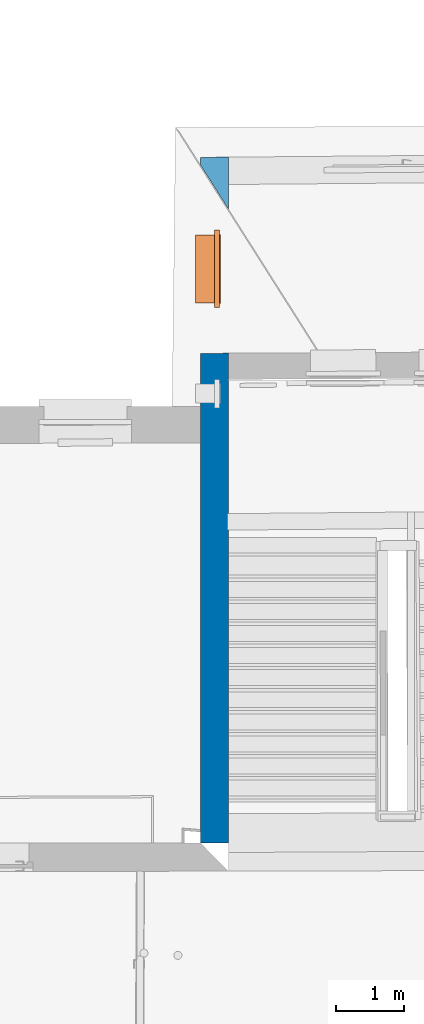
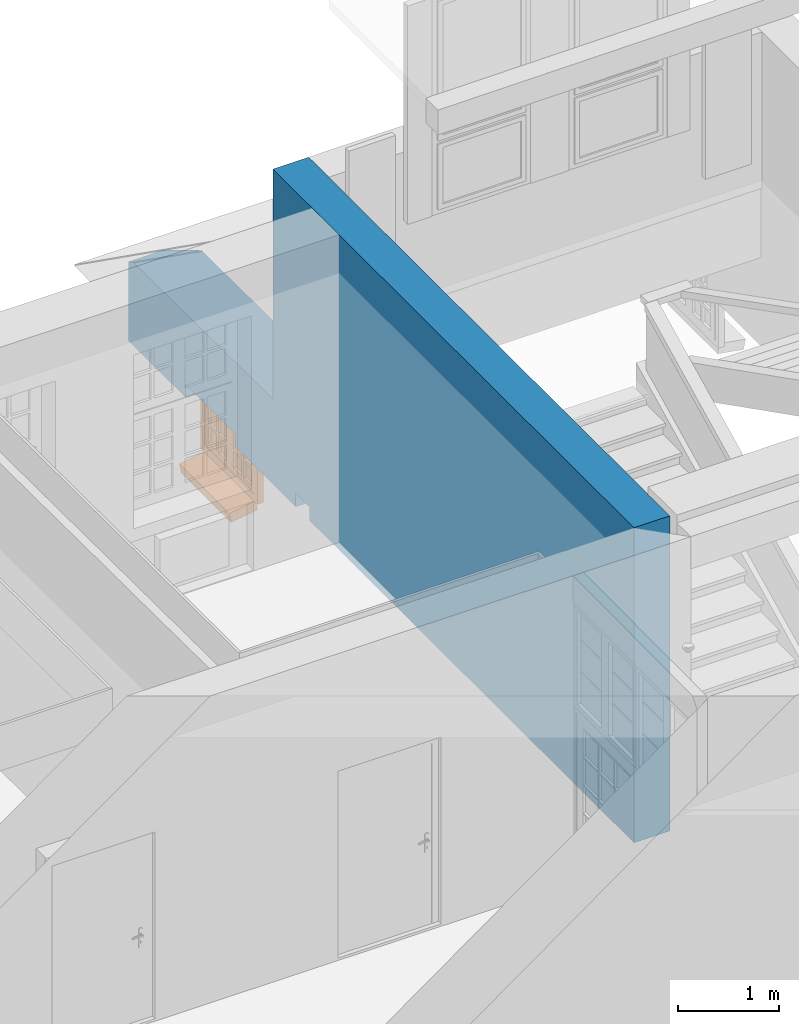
# One storey, part 59 of 158: 1 proxy, 1 wall, 2 openings.
"""IFC2X3 building model written with IfcOpenShell, lengths in metres."""

from ifc_helpers import new_model, entity, si_unit, converted_unit, derived_unit, money_unit, direction, frame, origin_with_axes, origin_2d_with_axis, place, context, subcontext, project, spatial, polyline, rectangle, outline, extrude, boolean, faceted_brep, source, transform, mapped, material, type_object, element, fill, save


model = new_model("IFC2X3")

# Units and contexts
model_context = context("Model", 3, precision=1e-05, world=origin_with_axes(), true_north=direction((0.0, 1.0)))
body_context = subcontext(model_context, "Body", "Model", "MODEL_VIEW")
ifc_project = project(units=[si_unit("LENGTHUNIT", "METRE"), si_unit("AREAUNIT", "SQUARE_METRE"), si_unit("VOLUMEUNIT", "CUBIC_METRE"), converted_unit("PLANEANGLEUNIT", "DEGREE", entity("IfcPlaneAngleMeasure", 0.0174532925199), si_unit("PLANEANGLEUNIT", "RADIAN"), dimensions=[0, 0, 0, 0, 0, 0, 0]), money_unit("EUR"), converted_unit("TIMEUNIT", "Year", entity("IfcTimeMeasure", 31556926.0), si_unit("TIMEUNIT", "SECOND"), dimensions=[0, 0, 1, 0, 0, 0, 0]), si_unit("MASSUNIT", "GRAM", prefix="KILO"), si_unit("THERMODYNAMICTEMPERATUREUNIT", "DEGREE_CELSIUS"), si_unit("LUMINOUSINTENSITYUNIT", "LUMEN"), si_unit("ENERGYUNIT", "JOULE", prefix="MEGA"), derived_unit("THERMALCONDUCTANCEUNIT", [(si_unit("POWERUNIT", "WATT"), 1), (si_unit("LENGTHUNIT", "METRE"), -1), (si_unit("THERMODYNAMICTEMPERATUREUNIT", "KELVIN"), -1)]), derived_unit("SPECIFICHEATCAPACITYUNIT", [(si_unit("ENERGYUNIT", "JOULE"), 1), (si_unit("MASSUNIT", "GRAM", prefix="KILO"), -1), (si_unit("THERMODYNAMICTEMPERATUREUNIT", "KELVIN"), -1)]), derived_unit("MASSDENSITYUNIT", [(si_unit("MASSUNIT", "GRAM", prefix="KILO"), 1), (si_unit("VOLUMEUNIT", "CUBIC_METRE"), -1)])], contexts=[model_context])

# Site, building, storey
site_placement = place(None, origin_with_axes())
site = spatial("IfcSite", under=ifc_project, at=site_placement, Name="Gelände", CompositionType="ELEMENT")
building_placement = place(site_placement, origin_with_axes())
building = spatial("IfcBuilding", under=site, at=building_placement, Name="Gebäude", CompositionType="ELEMENT")
storey_placement = place(building_placement, origin_with_axes())
storey = spatial("IfcBuildingStorey", under=building, at=storey_placement, Name="ERDGESCHOSS", CompositionType="ELEMENT", Elevation=0.0)

# Wall, openings, proxy
ifc_material = material(Name="05_ALLGEMEIN - TRAGENDE BAUTEILE")
wall_type = type_object("IfcWallType", Name="05_ALLGEMEIN - TRAGENDE BAUTEILE 410", PredefinedType="ELEMENTEDWALL")
wall_placement = place(storey_placement, frame((-9.84148057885, 19.2611596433, -0.209998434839), z_axis=(0.0, 0.0, 1.0), x_axis=(-9.41336570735e-05, 0.999999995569, 0.0)))
wall = element("IfcWall", 1, at=wall_placement, inside=storey, type_object=wall_type, material=ifc_material, Name="Wand-038", ObjectType="ELEMENTEDWALL", context=body_context, shape_type="CSG", body=[
    boolean("DIFFERENCE", boolean("DIFFERENCE", boolean("DIFFERENCE", boolean("DIFFERENCE", extrude(outline(polyline([(-0.000214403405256, 0.0), (10.4345770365, 0.0), (10.4345770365, 0.41), (-0.000214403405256, 0.41), (-0.000214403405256, 0.0)])), frame((0.0, 0.0, -1.56516104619e-06), z_axis=(0.0, 0.0, 1.0), x_axis=(1.0, 0.0, 0.0)), (0.0, 0.0, 1.0), 3.81), faceted_brep([(10.0345625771, 0.0, 0.579998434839), (10.0345625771, 0.0, 0.779998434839), (8.49417066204, 0.0, 0.779998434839), (8.49417066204, 0.0, 0.579998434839), (10.0345359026, 0.00313778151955, 0.579998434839), (10.0345359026, 0.00313778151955, 0.779998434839)], [[[0, 1, 2, 3]], [[1, 0, 4, 5]], [[2, 1, 5]], [[3, 2, 5, 4]], [[0, 3, 4]]])), faceted_brep([(7.56718618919, 0.409999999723, 3.80999843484), (7.56932948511, 0.0, 3.80999843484), (10.4345770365, 0.0, 3.80999843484), (10.4345770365, 0.41, 3.80999843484), (7.56932948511, 0.0, 1.41335739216), (7.56718618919, 0.409999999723, 1.02999122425), (9.67549543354, -2.82000200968e-10, 1.40668878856), (10.4345770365, 0.0, 0.949721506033), (9.67549543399, 0.0, 1.39406603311), (10.4345770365, 0.0, -1.56516104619e-06), (10.4345770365, 0.41, -1.56516104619e-06), (10.4310915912, 0.41, -1.56516104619e-06), (10.4310915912, 0.41, 0.951812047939), (10.3221751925, 0.40999999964, 1.01737974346), (10.3221751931, 0.41, 1.0047569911)], [[[0, 1, 2, 3]], [[4, 1, 0, 5]], [[6, 7, 2, 1, 4, 8]], [[7, 9, 10, 3, 2]], [[5, 0, 3, 10, 11, 12, 13, 14]], [[8, 4, 5, 14]], [[7, 6, 13, 12]], [[6, 8, 14, 13]], [[9, 7, 12, 11]], [[9, 11, 10]]])), faceted_brep([(7.18649658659, 0.0, 1.82999843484), (7.18649658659, 0.0, 1.91999843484), (4.68155282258, 0.0, 1.91999859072), (4.68155282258, 0.0, 1.61043476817), (4.92241202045, 0.0, 1.61043476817), (4.92241202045, 0.0, 1.82999843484), (4.92241064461, 0.000316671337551, 1.82999843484), (4.92241064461, 0.000316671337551, 1.91999859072), (4.92236894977, 0.00991337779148, 1.91999859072), (4.68151429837, 0.00886693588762, 1.91999859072), (4.68151429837, 0.00886693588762, 1.61043476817), (4.92236894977, 0.00991337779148, 1.61043476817)], [[[0, 1, 2, 3, 4, 5]], [[1, 0, 6, 7]], [[2, 1, 7, 8, 9]], [[3, 2, 9, 10]], [[4, 3, 10, 11]], [[5, 4, 11, 8, 7, 6]], [[0, 5, 6]], [[8, 11, 10, 9]]])), faceted_brep([(0.839775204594, 0.0, 3.56148876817), (0.839775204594, 0.0, 3.80999843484), (-0.000214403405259, 0.0, 3.80999843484), (-0.000214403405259, 0.0, -1.56516104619e-06), (0.414615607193, 0.0, -7.64886408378e-08), (0.414615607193, 0.0, 3.56148876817), (0.839761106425, 0.00267096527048, 3.80999843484), (0.839761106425, 0.00267096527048, 3.56148876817), (0.414615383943, 0.000426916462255, 3.80999843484), (0.414401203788, 0.41, 3.80999843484), (-0.000214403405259, 0.41, 3.80999843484), (-0.000214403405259, 0.41, -1.56516104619e-06), (0.414401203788, 0.41, -7.6482090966e-08), (0.414615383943, 0.000426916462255, 3.56148876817)], [[[0, 1, 2, 3, 4, 5]], [[6, 1, 0, 7]], [[8, 9, 10, 2, 1, 6]], [[10, 11, 3, 2]], [[12, 4, 3, 11]], [[5, 4, 12, 9, 8, 13]], [[0, 5, 13, 7]], [[8, 6, 7, 13]], [[9, 12, 11, 10]]])),
])
opening_1_placement = place(wall_placement, frame((8.80115134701, 0.0, -0.725296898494), z_axis=(0.0, 0.0, 1.0), x_axis=(1.0, 0.0, 0.0)))
opening_1 = element("IfcOpeningElement", 2, at=opening_1_placement, cuts=wall, Name="Fenster-015", context=body_context, shape_type="SweptSolid", body=[
    extrude(rectangle(XDim=0.991326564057, YDim=0.884032, at=origin_2d_with_axis()), frame((0.0, 0.201578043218, 0.442016), z_axis=(0.0, -1.0, 0.0), x_axis=(-1.0, 0.0, 0.0)), (0.0, 0.0, -1.0), 0.618421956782),
    extrude(rectangle(XDim=1.13132656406, YDim=0.954032, at=origin_2d_with_axis()), frame((0.0, 0.201578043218, 0.477016), z_axis=(0.0, 1.0, 0.0), x_axis=(-1.0, 0.0, 0.0)), (0.0, 0.0, -1.0), 0.611578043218),
    extrude(rectangle(XDim=0.991326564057, YDim=0.162128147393, at=origin_2d_with_axis()), frame((0.0, 0.160740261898, -0.0810640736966), z_axis=(0.0, -1.0, 0.0), x_axis=(-1.0, 0.0, 0.0)), (0.0, 0.0, -1.0), 0.45083778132),
])
opening_2_placement = place(wall_placement, frame((6.97954834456, 0.0, -0.707650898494), z_axis=(0.0, 0.0, 1.0), x_axis=(1.0, 0.0, 0.0)))
element("IfcOpeningElement", 3, at=opening_2_placement, cuts=wall, Name="Fenster-015", context=body_context, shape_type="SweptSolid", body=[
    extrude(rectangle(XDim=0.274211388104, YDim=0.866964, at=origin_2d_with_axis()), frame((0.0, 0.201578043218, 0.433482), z_axis=(0.0, -1.0, 0.0), x_axis=(-1.0, 0.0, 0.0)), (0.0, 0.0, -1.0), 0.618421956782),
    extrude(rectangle(XDim=0.414211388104, YDim=0.936964, at=origin_2d_with_axis()), frame((0.0, 0.201578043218, 0.468482), z_axis=(0.0, 1.0, 0.0), x_axis=(-1.0, 0.0, 0.0)), (0.0, 0.0, -1.0), 0.611578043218),
    extrude(rectangle(XDim=0.274211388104, YDim=0.162128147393, at=origin_2d_with_axis()), frame((0.0, 0.160740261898, -0.0810640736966), z_axis=(0.0, -1.0, 0.0), x_axis=(-1.0, 0.0, 0.0)), (0.0, 0.0, -1.0), 0.45083778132),
])
building_element_proxy_type = type_object("IfcBuildingElementProxyType", Name="2-Flügelfenster 25", PredefinedType="NOTDEFINED")
shared_shape = source(origin_with_axes(), body_context, "Body", "Brep", [
    faceted_brep([(-0.495663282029, -0.05, 0.0), (-0.495663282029, -0.349259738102, -0.0527675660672), (0.495663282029, -0.349259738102, -0.0527675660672), (0.495663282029, -0.05, 0.0), (-0.495663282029, -0.02916221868, -0.118176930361), (-0.495663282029, -0.328421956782, -0.170944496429), (0.495663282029, -0.328421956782, -0.170944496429), (0.495663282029, -0.02916221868, -0.118176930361)], [[[0, 1, 2, 3]], [[0, 4, 5, 1]], [[1, 5, 6, 2]], [[3, 2, 6, 7]], [[4, 0, 3, 7]], [[5, 4, 7, 6]]]),
    faceted_brep([(-0.565663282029, -0.07, 0.0), (-0.565663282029, 0.0, 0.0), (-0.485663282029, 0.0, 0.08), (-0.485663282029, -0.07, 0.08), (-0.565663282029, -0.07, 0.954032), (-0.565663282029, 0.0, 0.954032), (-0.485663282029, 0.0, 0.874032), (-0.485663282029, -0.07, 0.874032)], [[[0, 1, 2, 3]], [[4, 5, 1, 0]], [[1, 5, 6, 2]], [[3, 2, 6, 7]], [[0, 3, 7, 4]], [[7, 6, 5, 4]]]),
    faceted_brep([(0.565663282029, -0.07, 0.0), (0.565663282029, 0.0, 0.0), (0.565663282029, 0.0, 0.954032), (0.565663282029, -0.07, 0.954032), (0.485663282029, -0.07, 0.08), (0.485663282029, 0.0, 0.08), (0.485663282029, 0.0, 0.874032), (0.485663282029, -0.07, 0.874032)], [[[0, 1, 2, 3]], [[4, 5, 1, 0]], [[1, 5, 6, 2]], [[3, 2, 6, 7]], [[0, 3, 7, 4]], [[7, 6, 5, 4]]]),
    faceted_brep([(-0.565663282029, -0.07, 0.0), (-0.565663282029, 0.0, 0.0), (0.565663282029, 0.0, 0.0), (0.565663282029, -0.07, 0.0), (-0.485663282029, -0.07, 0.08), (-0.485663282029, 0.0, 0.08), (0.0, 0.0, 0.08), (0.485663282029, 0.0, 0.08), (0.485663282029, -0.07, 0.08), (0.0, -0.07, 0.08)], [[[0, 1, 2, 3]], [[4, 5, 1, 0]], [[1, 5, 6, 7, 2]], [[3, 2, 7, 8]], [[0, 3, 8, 9, 4]], [[9, 6, 5, 4]], [[8, 7, 6, 9]]]),
    faceted_brep([(-0.565663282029, -0.07, 0.954032), (-0.565663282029, 0.0, 0.954032), (-0.485663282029, 0.0, 0.874032), (-0.485663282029, -0.07, 0.874032), (0.565663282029, -0.07, 0.954032), (0.565663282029, 0.0, 0.954032), (0.485663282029, 0.0, 0.874032), (0.0, 0.0, 0.874032), (0.0, -0.07, 0.874032), (0.485663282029, -0.07, 0.874032)], [[[0, 1, 2, 3]], [[4, 5, 1, 0]], [[1, 5, 6, 7, 2]], [[3, 2, 7, 8]], [[0, 3, 8, 9, 4]], [[9, 6, 5, 4]], [[8, 7, 6, 9]]]),
    faceted_brep([(-0.505663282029, 0.0, 0.06), (-0.505663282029, 0.013, 0.06), (-0.425663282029, 0.013, 0.14), (-0.425663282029, 0.0, 0.14), (-0.505663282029, 0.0, 0.894032), (-0.505663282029, 0.013, 0.894032), (-0.425663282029, 0.013, 0.814032), (-0.425663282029, 0.0, 0.814032)], [[[0, 1, 2, 3]], [[4, 5, 1, 0]], [[1, 5, 6, 2]], [[3, 2, 6, 7]], [[0, 3, 7, 4]], [[7, 6, 5, 4]]]),
    faceted_brep([(-0.01, 0.0, 0.06), (-0.01, 0.013, 0.06), (-0.01, 0.013, 0.894032), (-0.01, 0.0, 0.894032), (-0.07, 0.0, 0.14), (-0.07, 0.013, 0.14), (-0.07, 0.013, 0.814032), (-0.07, 0.0, 0.814032)], [[[0, 1, 2, 3]], [[4, 5, 1, 0]], [[1, 5, 6, 2]], [[3, 2, 6, 7]], [[0, 3, 7, 4]], [[7, 6, 5, 4]]]),
    faceted_brep([(-0.505663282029, 0.0, 0.06), (-0.505663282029, 0.013, 0.06), (-0.01, 0.013, 0.06), (-0.01, 0.0, 0.06), (-0.425663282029, 0.0, 0.14), (-0.425663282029, 0.013, 0.14), (-0.07, 0.013, 0.14), (-0.07, 0.0, 0.14)], [[[0, 1, 2, 3]], [[4, 5, 1, 0]], [[1, 5, 6, 2]], [[3, 2, 6, 7]], [[0, 3, 7, 4]], [[7, 6, 5, 4]]]),
    faceted_brep([(-0.505663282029, 0.0, 0.894032), (-0.505663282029, 0.013, 0.894032), (-0.425663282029, 0.013, 0.814032), (-0.425663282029, 0.0, 0.814032), (-0.01, 0.0, 0.894032), (-0.01, 0.013, 0.894032), (-0.07, 0.013, 0.814032), (-0.07, 0.0, 0.814032)], [[[0, 1, 2, 3]], [[4, 5, 1, 0]], [[1, 5, 6, 2]], [[3, 2, 6, 7]], [[0, 3, 7, 4]], [[7, 6, 5, 4]]]),
    faceted_brep([(-0.485663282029, -0.057, 0.08), (-0.485663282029, 0.0, 0.08), (-0.425663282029, 0.0, 0.14), (-0.425663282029, -0.057, 0.14), (-0.485663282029, -0.057, 0.874032), (-0.485663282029, 0.0, 0.874032), (-0.425663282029, 0.0, 0.814032), (-0.425663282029, -0.057, 0.814032)], [[[0, 1, 2, 3]], [[4, 5, 1, 0]], [[1, 5, 6, 2]], [[3, 2, 6, 7]], [[0, 3, 7, 4]], [[7, 6, 5, 4]]]),
    faceted_brep([(0.01, -0.057, 0.08), (0.01, 0.0, 0.08), (0.01, 0.0, 0.874032), (0.01, -0.057, 0.874032), (-0.07, -0.057, 0.14), (-0.07, 0.0, 0.14), (-0.07, 0.0, 0.814032), (-0.07, -0.057, 0.814032)], [[[0, 1, 2, 3]], [[4, 5, 1, 0]], [[1, 5, 6, 2]], [[3, 2, 6, 7]], [[0, 3, 7, 4]], [[7, 6, 5, 4]]]),
    faceted_brep([(-0.485663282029, -0.057, 0.08), (-0.485663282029, 0.0, 0.08), (0.01, 0.0, 0.08), (0.01, -0.057, 0.08), (-0.425663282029, -0.057, 0.14), (-0.425663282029, 0.0, 0.14), (-0.07, 0.0, 0.14), (-0.07, -0.057, 0.14)], [[[0, 1, 2, 3]], [[4, 5, 1, 0]], [[1, 5, 6, 2]], [[3, 2, 6, 7]], [[0, 3, 7, 4]], [[7, 6, 5, 4]]]),
    faceted_brep([(-0.485663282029, -0.057, 0.874032), (-0.485663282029, 0.0, 0.874032), (-0.425663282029, 0.0, 0.814032), (-0.425663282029, -0.057, 0.814032), (0.01, -0.057, 0.874032), (0.01, 0.0, 0.874032), (-0.07, 0.0, 0.814032), (-0.07, -0.057, 0.814032)], [[[0, 1, 2, 3]], [[4, 5, 1, 0]], [[1, 5, 6, 2]], [[3, 2, 6, 7]], [[0, 3, 7, 4]], [[7, 6, 5, 4]]]),
    faceted_brep([(-0.265331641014, -0.057, 0.14), (-0.265331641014, -0.022, 0.14), (-0.230331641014, -0.022, 0.14), (-0.230331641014, -0.057, 0.14), (-0.265331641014, -0.057, 0.814032), (-0.265331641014, -0.022, 0.814032), (-0.230331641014, -0.022, 0.814032), (-0.230331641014, -0.057, 0.814032)], [[[0, 1, 2, 3]], [[4, 5, 1, 0]], [[1, 5, 6, 2]], [[3, 2, 6, 7]], [[0, 3, 7, 4]], [[7, 6, 5, 4]]]),
    faceted_brep([(-0.265331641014, -0.022, 0.14), (-0.265331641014, 0.013, 0.14), (-0.230331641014, 0.013, 0.14), (-0.230331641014, -0.022, 0.14), (-0.265331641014, -0.022, 0.814032), (-0.265331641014, 0.013, 0.814032), (-0.230331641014, 0.013, 0.814032), (-0.230331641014, -0.022, 0.814032)], [[[0, 1, 2, 3]], [[4, 5, 1, 0]], [[1, 5, 6, 2]], [[3, 2, 6, 7]], [[0, 3, 7, 4]], [[7, 6, 5, 4]]]),
    faceted_brep([(-0.265331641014, -0.057, 0.341344), (-0.265331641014, -0.057, 0.376344), (-0.425663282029, -0.057, 0.376344), (-0.425663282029, -0.057, 0.341344), (-0.265331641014, -0.022, 0.376344), (-0.265331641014, -0.022, 0.341344), (-0.425663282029, -0.022, 0.376344), (-0.425663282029, -0.022, 0.341344)], [[[0, 1, 2, 3]], [[4, 1, 0, 5]], [[1, 4, 6, 2]], [[6, 7, 3, 2]], [[5, 0, 3, 7]], [[4, 5, 7, 6]]]),
    faceted_brep([(-0.230331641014, -0.022, 0.376344), (-0.230331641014, -0.057, 0.376344), (-0.07, -0.057, 0.376344), (-0.07, -0.022, 0.376344), (-0.230331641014, -0.057, 0.341344), (-0.230331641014, -0.022, 0.341344), (-0.07, -0.057, 0.341344), (-0.07, -0.022, 0.341344)], [[[0, 1, 2, 3]], [[4, 1, 0, 5]], [[1, 4, 6, 2]], [[7, 3, 2, 6]], [[5, 0, 3, 7]], [[4, 5, 7, 6]]]),
    faceted_brep([(-0.265331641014, -0.022, 0.341344), (-0.265331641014, -0.022, 0.376344), (-0.425663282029, -0.022, 0.376344), (-0.425663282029, -0.022, 0.341344), (-0.265331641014, 0.013, 0.376344), (-0.265331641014, 0.013, 0.341344), (-0.425663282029, 0.013, 0.376344), (-0.425663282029, 0.013, 0.341344)], [[[0, 1, 2, 3]], [[4, 1, 0, 5]], [[1, 4, 6, 2]], [[6, 7, 3, 2]], [[5, 0, 3, 7]], [[4, 5, 7, 6]]]),
    faceted_brep([(-0.230331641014, 0.013, 0.376344), (-0.230331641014, -0.022, 0.376344), (-0.07, -0.022, 0.376344), (-0.07, 0.013, 0.376344), (-0.230331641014, -0.022, 0.341344), (-0.230331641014, 0.013, 0.341344), (-0.07, -0.022, 0.341344), (-0.07, 0.013, 0.341344)], [[[0, 1, 2, 3]], [[4, 1, 0, 5]], [[1, 4, 6, 2]], [[7, 3, 2, 6]], [[5, 0, 3, 7]], [[4, 5, 7, 6]]]),
    faceted_brep([(-0.265331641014, -0.057, 0.577688), (-0.265331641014, -0.057, 0.612688), (-0.425663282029, -0.057, 0.612688), (-0.425663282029, -0.057, 0.577688), (-0.265331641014, -0.022, 0.612688), (-0.265331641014, -0.022, 0.577688), (-0.425663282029, -0.022, 0.612688), (-0.425663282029, -0.022, 0.577688)], [[[0, 1, 2, 3]], [[4, 1, 0, 5]], [[1, 4, 6, 2]], [[6, 7, 3, 2]], [[5, 0, 3, 7]], [[4, 5, 7, 6]]]),
    faceted_brep([(-0.230331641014, -0.022, 0.612688), (-0.230331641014, -0.057, 0.612688), (-0.07, -0.057, 0.612688), (-0.07, -0.022, 0.612688), (-0.230331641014, -0.057, 0.577688), (-0.230331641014, -0.022, 0.577688), (-0.07, -0.057, 0.577688), (-0.07, -0.022, 0.577688)], [[[0, 1, 2, 3]], [[4, 1, 0, 5]], [[1, 4, 6, 2]], [[7, 3, 2, 6]], [[5, 0, 3, 7]], [[4, 5, 7, 6]]]),
    faceted_brep([(-0.265331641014, -0.022, 0.577688), (-0.265331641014, -0.022, 0.612688), (-0.425663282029, -0.022, 0.612688), (-0.425663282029, -0.022, 0.577688), (-0.265331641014, 0.013, 0.612688), (-0.265331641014, 0.013, 0.577688), (-0.425663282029, 0.013, 0.612688), (-0.425663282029, 0.013, 0.577688)], [[[0, 1, 2, 3]], [[4, 1, 0, 5]], [[1, 4, 6, 2]], [[6, 7, 3, 2]], [[5, 0, 3, 7]], [[4, 5, 7, 6]]]),
    faceted_brep([(-0.230331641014, 0.013, 0.612688), (-0.230331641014, -0.022, 0.612688), (-0.07, -0.022, 0.612688), (-0.07, 0.013, 0.612688), (-0.230331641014, -0.022, 0.577688), (-0.230331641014, 0.013, 0.577688), (-0.07, -0.022, 0.577688), (-0.07, 0.013, 0.577688)], [[[0, 1, 2, 3]], [[4, 1, 0, 5]], [[1, 4, 6, 2]], [[7, 3, 2, 6]], [[5, 0, 3, 7]], [[4, 5, 7, 6]]]),
    faceted_brep([(-0.265331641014, -0.017, 0.577688), (-0.265331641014, -0.027, 0.577688), (-0.265331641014, -0.027, 0.376344), (-0.265331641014, -0.017, 0.376344), (-0.425663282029, -0.027, 0.577688), (-0.425663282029, -0.017, 0.577688), (-0.425663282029, -0.027, 0.376344), (-0.425663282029, -0.017, 0.376344)], [[[0, 1, 2, 3]], [[4, 1, 0, 5]], [[1, 4, 6, 2]], [[2, 6, 7, 3]], [[5, 0, 3, 7]], [[4, 5, 7, 6]]]),
    faceted_brep([(-0.07, -0.027, 0.14), (-0.07, -0.017, 0.14), (-0.07, -0.017, 0.341344), (-0.07, -0.027, 0.341344), (-0.230331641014, -0.027, 0.14), (-0.230331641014, -0.017, 0.14), (-0.230331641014, -0.017, 0.341344), (-0.230331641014, -0.027, 0.341344)], [[[0, 1, 2, 3]], [[0, 4, 5, 1]], [[1, 5, 6, 2]], [[2, 6, 7, 3]], [[4, 0, 3, 7]], [[5, 4, 7, 6]]]),
    faceted_brep([(-0.265331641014, -0.027, 0.14), (-0.265331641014, -0.017, 0.14), (-0.265331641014, -0.017, 0.341344), (-0.265331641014, -0.027, 0.341344), (-0.425663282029, -0.017, 0.14), (-0.425663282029, -0.027, 0.14), (-0.425663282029, -0.017, 0.341344), (-0.425663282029, -0.027, 0.341344)], [[[0, 1, 2, 3]], [[4, 1, 0, 5]], [[1, 4, 6, 2]], [[2, 6, 7, 3]], [[5, 0, 3, 7]], [[4, 5, 7, 6]]]),
    faceted_brep([(-0.07, -0.017, 0.577688), (-0.07, -0.027, 0.577688), (-0.07, -0.027, 0.376344), (-0.07, -0.017, 0.376344), (-0.230331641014, -0.027, 0.577688), (-0.230331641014, -0.017, 0.577688), (-0.230331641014, -0.027, 0.376344), (-0.230331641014, -0.017, 0.376344)], [[[0, 1, 2, 3]], [[4, 1, 0, 5]], [[1, 4, 6, 2]], [[2, 6, 7, 3]], [[5, 0, 3, 7]], [[4, 5, 7, 6]]]),
    faceted_brep([(-0.425663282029, -0.027, 0.612688), (-0.265331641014, -0.027, 0.612688), (-0.265331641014, -0.027, 0.814032), (-0.425663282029, -0.027, 0.814032), (-0.265331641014, -0.017, 0.612688), (-0.425663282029, -0.017, 0.612688), (-0.265331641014, -0.017, 0.814032), (-0.425663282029, -0.017, 0.814032)], [[[0, 1, 2, 3]], [[4, 1, 0, 5]], [[1, 4, 6, 2]], [[7, 3, 2, 6]], [[5, 0, 3, 7]], [[4, 5, 7, 6]]]),
    faceted_brep([(-0.230331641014, -0.027, 0.612688), (-0.07, -0.027, 0.612688), (-0.07, -0.027, 0.814032), (-0.230331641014, -0.027, 0.814032), (-0.07, -0.017, 0.612688), (-0.230331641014, -0.017, 0.612688), (-0.07, -0.017, 0.814032), (-0.230331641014, -0.017, 0.814032)], [[[0, 1, 2, 3]], [[4, 1, 0, 5]], [[1, 4, 6, 2]], [[2, 6, 7, 3]], [[5, 0, 3, 7]], [[4, 5, 7, 6]]]),
    faceted_brep([(-0.01, 0.0, 0.06), (-0.01, 0.013, 0.06), (0.07, 0.013, 0.14), (0.07, 0.0, 0.14), (-0.01, 0.0, 0.894032), (-0.01, 0.013, 0.894032), (0.07, 0.013, 0.814032), (0.07, 0.0, 0.814032)], [[[0, 1, 2, 3]], [[4, 5, 1, 0]], [[1, 5, 6, 2]], [[3, 2, 6, 7]], [[0, 3, 7, 4]], [[7, 6, 5, 4]]]),
    faceted_brep([(0.505663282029, 0.0, 0.06), (0.425663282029, 0.0, 0.14), (0.425663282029, 0.013, 0.14), (0.505663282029, 0.013, 0.06), (0.505663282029, 0.0, 0.894032), (0.425663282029, 0.0, 0.814032), (0.425663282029, 0.013, 0.814032), (0.505663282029, 0.013, 0.894032)], [[[0, 1, 2, 3]], [[0, 4, 5, 1]], [[1, 5, 6, 2]], [[3, 2, 6, 7]], [[4, 0, 3, 7]], [[5, 4, 7, 6]]]),
    faceted_brep([(-0.01, 0.0, 0.06), (-0.01, 0.013, 0.06), (0.505663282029, 0.013, 0.06), (0.505663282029, 0.0, 0.06), (0.07, 0.0, 0.14), (0.07, 0.013, 0.14), (0.425663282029, 0.013, 0.14), (0.425663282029, 0.0, 0.14)], [[[0, 1, 2, 3]], [[4, 5, 1, 0]], [[1, 5, 6, 2]], [[3, 2, 6, 7]], [[0, 3, 7, 4]], [[7, 6, 5, 4]]]),
    faceted_brep([(-0.01, 0.0, 0.894032), (0.505663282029, 0.0, 0.894032), (0.505663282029, 0.013, 0.894032), (-0.01, 0.013, 0.894032), (0.07, 0.0, 0.814032), (0.425663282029, 0.0, 0.814032), (0.425663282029, 0.013, 0.814032), (0.07, 0.013, 0.814032)], [[[0, 1, 2, 3]], [[0, 4, 5, 1]], [[1, 5, 6, 2]], [[3, 2, 6, 7]], [[4, 0, 3, 7]], [[5, 4, 7, 6]]]),
    faceted_brep([(0.01, -0.057, 0.08), (0.01, 0.0, 0.08), (0.07, 0.0, 0.14), (0.07, -0.057, 0.14), (0.01, -0.057, 0.874032), (0.01, 0.0, 0.874032), (0.07, 0.0, 0.814032), (0.07, -0.057, 0.814032)], [[[0, 1, 2, 3]], [[4, 5, 1, 0]], [[1, 5, 6, 2]], [[3, 2, 6, 7]], [[0, 3, 7, 4]], [[7, 6, 5, 4]]]),
    faceted_brep([(0.485663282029, -0.057, 0.08), (0.425663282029, -0.057, 0.14), (0.425663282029, 0.0, 0.14), (0.485663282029, 0.0, 0.08), (0.485663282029, -0.057, 0.874032), (0.425663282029, -0.057, 0.814032), (0.425663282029, 0.0, 0.814032), (0.485663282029, 0.0, 0.874032)], [[[0, 1, 2, 3]], [[0, 4, 5, 1]], [[1, 5, 6, 2]], [[3, 2, 6, 7]], [[4, 0, 3, 7]], [[5, 4, 7, 6]]]),
    faceted_brep([(0.01, -0.057, 0.08), (0.01, 0.0, 0.08), (0.485663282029, 0.0, 0.08), (0.485663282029, -0.057, 0.08), (0.07, -0.057, 0.14), (0.07, 0.0, 0.14), (0.425663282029, 0.0, 0.14), (0.425663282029, -0.057, 0.14)], [[[0, 1, 2, 3]], [[4, 5, 1, 0]], [[1, 5, 6, 2]], [[3, 2, 6, 7]], [[0, 3, 7, 4]], [[7, 6, 5, 4]]]),
    faceted_brep([(0.01, -0.057, 0.874032), (0.485663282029, -0.057, 0.874032), (0.485663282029, 0.0, 0.874032), (0.01, 0.0, 0.874032), (0.07, -0.057, 0.814032), (0.425663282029, -0.057, 0.814032), (0.425663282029, 0.0, 0.814032), (0.07, 0.0, 0.814032)], [[[0, 1, 2, 3]], [[0, 4, 5, 1]], [[1, 5, 6, 2]], [[3, 2, 6, 7]], [[4, 0, 3, 7]], [[5, 4, 7, 6]]]),
    faceted_brep([(0.230331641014, -0.057, 0.14), (0.230331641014, -0.022, 0.14), (0.265331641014, -0.022, 0.14), (0.265331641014, -0.057, 0.14), (0.230331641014, -0.057, 0.814032), (0.230331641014, -0.022, 0.814032), (0.265331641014, -0.022, 0.814032), (0.265331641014, -0.057, 0.814032)], [[[0, 1, 2, 3]], [[4, 5, 1, 0]], [[1, 5, 6, 2]], [[3, 2, 6, 7]], [[0, 3, 7, 4]], [[7, 6, 5, 4]]]),
    faceted_brep([(0.230331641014, -0.022, 0.14), (0.230331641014, 0.013, 0.14), (0.265331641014, 0.013, 0.14), (0.265331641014, -0.022, 0.14), (0.230331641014, -0.022, 0.814032), (0.230331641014, 0.013, 0.814032), (0.265331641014, 0.013, 0.814032), (0.265331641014, -0.022, 0.814032)], [[[0, 1, 2, 3]], [[4, 5, 1, 0]], [[1, 5, 6, 2]], [[3, 2, 6, 7]], [[0, 3, 7, 4]], [[7, 6, 5, 4]]]),
    faceted_brep([(0.230331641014, -0.057, 0.341344), (0.230331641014, -0.057, 0.376344), (0.07, -0.057, 0.376344), (0.07, -0.057, 0.341344), (0.230331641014, -0.022, 0.376344), (0.230331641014, -0.022, 0.341344), (0.07, -0.022, 0.376344), (0.07, -0.022, 0.341344)], [[[0, 1, 2, 3]], [[4, 1, 0, 5]], [[1, 4, 6, 2]], [[6, 7, 3, 2]], [[5, 0, 3, 7]], [[4, 5, 7, 6]]]),
    faceted_brep([(0.265331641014, -0.022, 0.376344), (0.265331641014, -0.057, 0.376344), (0.425663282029, -0.057, 0.376344), (0.425663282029, -0.022, 0.376344), (0.265331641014, -0.057, 0.341344), (0.265331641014, -0.022, 0.341344), (0.425663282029, -0.057, 0.341344), (0.425663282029, -0.022, 0.341344)], [[[0, 1, 2, 3]], [[4, 1, 0, 5]], [[1, 4, 6, 2]], [[7, 3, 2, 6]], [[5, 0, 3, 7]], [[4, 5, 7, 6]]]),
    faceted_brep([(0.230331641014, -0.022, 0.341344), (0.230331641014, -0.022, 0.376344), (0.07, -0.022, 0.376344), (0.07, -0.022, 0.341344), (0.230331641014, 0.013, 0.376344), (0.230331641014, 0.013, 0.341344), (0.07, 0.013, 0.376344), (0.07, 0.013, 0.341344)], [[[0, 1, 2, 3]], [[4, 1, 0, 5]], [[1, 4, 6, 2]], [[6, 7, 3, 2]], [[5, 0, 3, 7]], [[4, 5, 7, 6]]]),
    faceted_brep([(0.265331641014, 0.013, 0.376344), (0.265331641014, -0.022, 0.376344), (0.425663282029, -0.022, 0.376344), (0.425663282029, 0.013, 0.376344), (0.265331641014, -0.022, 0.341344), (0.265331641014, 0.013, 0.341344), (0.425663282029, -0.022, 0.341344), (0.425663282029, 0.013, 0.341344)], [[[0, 1, 2, 3]], [[4, 1, 0, 5]], [[1, 4, 6, 2]], [[7, 3, 2, 6]], [[5, 0, 3, 7]], [[4, 5, 7, 6]]]),
    faceted_brep([(0.230331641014, -0.057, 0.577688), (0.230331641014, -0.057, 0.612688), (0.07, -0.057, 0.612688), (0.07, -0.057, 0.577688), (0.230331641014, -0.022, 0.612688), (0.230331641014, -0.022, 0.577688), (0.07, -0.022, 0.612688), (0.07, -0.022, 0.577688)], [[[0, 1, 2, 3]], [[4, 1, 0, 5]], [[1, 4, 6, 2]], [[6, 7, 3, 2]], [[5, 0, 3, 7]], [[4, 5, 7, 6]]]),
    faceted_brep([(0.265331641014, -0.022, 0.612688), (0.265331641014, -0.057, 0.612688), (0.425663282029, -0.057, 0.612688), (0.425663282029, -0.022, 0.612688), (0.265331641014, -0.057, 0.577688), (0.265331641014, -0.022, 0.577688), (0.425663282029, -0.057, 0.577688), (0.425663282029, -0.022, 0.577688)], [[[0, 1, 2, 3]], [[4, 1, 0, 5]], [[1, 4, 6, 2]], [[7, 3, 2, 6]], [[5, 0, 3, 7]], [[4, 5, 7, 6]]]),
    faceted_brep([(0.230331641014, -0.022, 0.577688), (0.230331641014, -0.022, 0.612688), (0.07, -0.022, 0.612688), (0.07, -0.022, 0.577688), (0.230331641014, 0.013, 0.612688), (0.230331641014, 0.013, 0.577688), (0.07, 0.013, 0.612688), (0.07, 0.013, 0.577688)], [[[0, 1, 2, 3]], [[4, 1, 0, 5]], [[1, 4, 6, 2]], [[6, 7, 3, 2]], [[5, 0, 3, 7]], [[4, 5, 7, 6]]]),
    faceted_brep([(0.265331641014, 0.013, 0.612688), (0.265331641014, -0.022, 0.612688), (0.425663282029, -0.022, 0.612688), (0.425663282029, 0.013, 0.612688), (0.265331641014, -0.022, 0.577688), (0.265331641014, 0.013, 0.577688), (0.425663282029, -0.022, 0.577688), (0.425663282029, 0.013, 0.577688)], [[[0, 1, 2, 3]], [[4, 1, 0, 5]], [[1, 4, 6, 2]], [[7, 3, 2, 6]], [[5, 0, 3, 7]], [[4, 5, 7, 6]]]),
    faceted_brep([(0.230331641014, -0.017, 0.577688), (0.230331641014, -0.027, 0.577688), (0.230331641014, -0.027, 0.376344), (0.230331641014, -0.017, 0.376344), (0.07, -0.027, 0.577688), (0.07, -0.017, 0.577688), (0.07, -0.027, 0.376344), (0.07, -0.017, 0.376344)], [[[0, 1, 2, 3]], [[4, 1, 0, 5]], [[1, 4, 6, 2]], [[2, 6, 7, 3]], [[5, 0, 3, 7]], [[4, 5, 7, 6]]]),
    faceted_brep([(0.425663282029, -0.027, 0.14), (0.425663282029, -0.017, 0.14), (0.425663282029, -0.017, 0.341344), (0.425663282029, -0.027, 0.341344), (0.265331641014, -0.027, 0.14), (0.265331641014, -0.017, 0.14), (0.265331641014, -0.017, 0.341344), (0.265331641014, -0.027, 0.341344)], [[[0, 1, 2, 3]], [[0, 4, 5, 1]], [[1, 5, 6, 2]], [[2, 6, 7, 3]], [[4, 0, 3, 7]], [[5, 4, 7, 6]]]),
    faceted_brep([(0.230331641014, -0.027, 0.14), (0.230331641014, -0.017, 0.14), (0.230331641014, -0.017, 0.341344), (0.230331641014, -0.027, 0.341344), (0.07, -0.017, 0.14), (0.07, -0.027, 0.14), (0.07, -0.017, 0.341344), (0.07, -0.027, 0.341344)], [[[0, 1, 2, 3]], [[4, 1, 0, 5]], [[1, 4, 6, 2]], [[2, 6, 7, 3]], [[5, 0, 3, 7]], [[4, 5, 7, 6]]]),
    faceted_brep([(0.425663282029, -0.017, 0.577688), (0.425663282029, -0.027, 0.577688), (0.425663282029, -0.027, 0.376344), (0.425663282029, -0.017, 0.376344), (0.265331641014, -0.027, 0.577688), (0.265331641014, -0.017, 0.577688), (0.265331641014, -0.027, 0.376344), (0.265331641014, -0.017, 0.376344)], [[[0, 1, 2, 3]], [[4, 1, 0, 5]], [[1, 4, 6, 2]], [[2, 6, 7, 3]], [[5, 0, 3, 7]], [[4, 5, 7, 6]]]),
    faceted_brep([(0.07, -0.027, 0.612688), (0.230331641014, -0.027, 0.612688), (0.230331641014, -0.027, 0.814032), (0.07, -0.027, 0.814032), (0.230331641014, -0.017, 0.612688), (0.07, -0.017, 0.612688), (0.230331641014, -0.017, 0.814032), (0.07, -0.017, 0.814032)], [[[0, 1, 2, 3]], [[4, 1, 0, 5]], [[1, 4, 6, 2]], [[7, 3, 2, 6]], [[5, 0, 3, 7]], [[4, 5, 7, 6]]]),
    faceted_brep([(0.265331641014, -0.027, 0.612688), (0.425663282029, -0.027, 0.612688), (0.425663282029, -0.027, 0.814032), (0.265331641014, -0.027, 0.814032), (0.425663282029, -0.017, 0.612688), (0.265331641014, -0.017, 0.612688), (0.425663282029, -0.017, 0.814032), (0.265331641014, -0.017, 0.814032)], [[[0, 1, 2, 3]], [[4, 1, 0, 5]], [[1, 4, 6, 2]], [[2, 6, 7, 3]], [[5, 0, 3, 7]], [[4, 5, 7, 6]]]),
])
proxy_placement = place(opening_1_placement, frame((0.565663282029, 0.0, 0.0), z_axis=(0.0, 0.0, 1.0), x_axis=(-1.0, 0.0, 0.0)))
proxy = element("IfcBuildingElementProxy", 4, at=proxy_placement, inside=storey, type_object=building_element_proxy_type, Name="Fenster-015", context=body_context, shape_type="MappedRepresentation", body=[
    mapped(shared_shape, transform((0.565663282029, -0.131578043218, 0.0))),
])
fill(opening_1, proxy)

save(model, "model.ifc")
